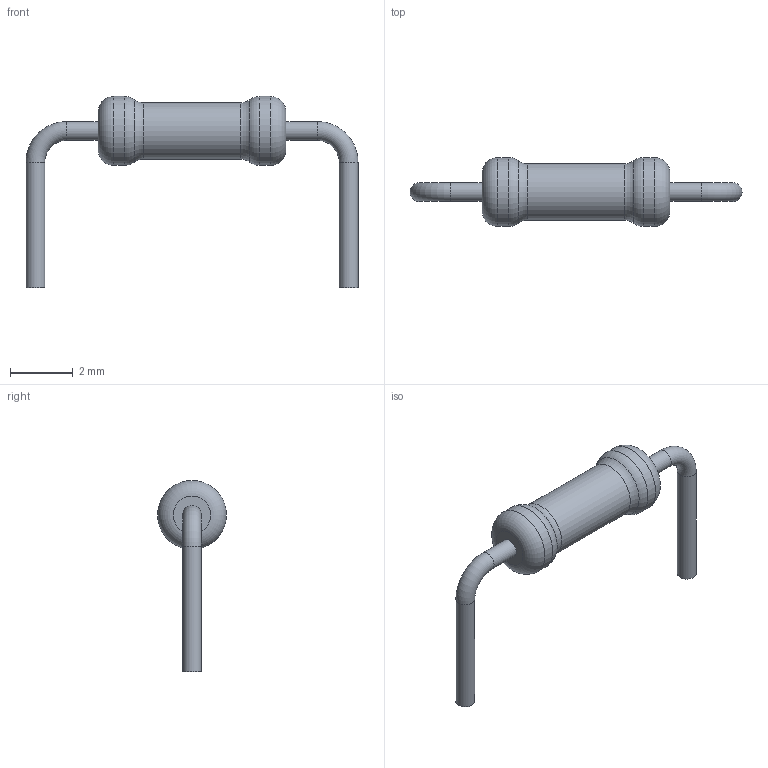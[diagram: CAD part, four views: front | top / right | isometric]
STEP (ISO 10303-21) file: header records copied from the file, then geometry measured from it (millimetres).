
FILE_DESCRIPTION(('STEP AP203'), '1');
FILE_NAME('R1-32-0.125(1)', '', ('UNSPECIFIED'), ('UNSPECIFIED'), 'ASCON STEP Converter 1.6', 'ASCON Math Kernel', '');
FILE_SCHEMA(('CONFIG_CONTROL_DESIGN'));
Length unit declared in the file: millimetre
Bounding box: 10.6 x 2.2 x 6.1 mm (x, y, z)
Volume: 21.2 mm3; surface area: 66.6 mm2
Topology: 1 solids, 1 shells, 19 faces, 33 edges, 18 vertices
Faces by surface type: torus 8, cylinder 7, plane 4
Full cylindrical faces by diameter (mm): 0.6 x4, 1.8 x1, 2.2 x2
Entity records: 570 total; most frequent: DIRECTION 76, CARTESIAN_POINT 56, AXIS2_PLACEMENT_3D 38, EDGE_LOOP 36, ORIENTED_EDGE 36, FACE_OUTER_BOUND 30, COLOUR_RGB 20, FILL_AREA_STYLE_COLOUR 20
